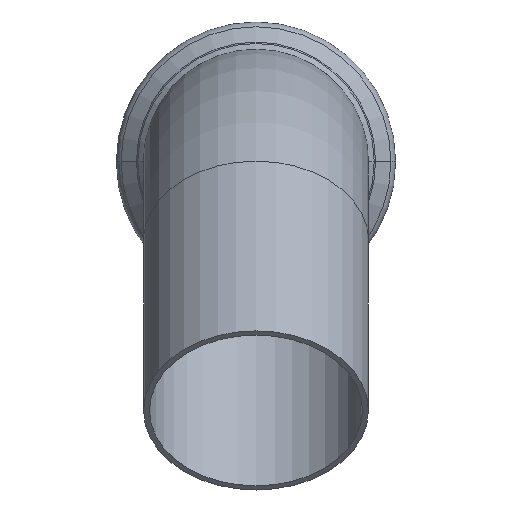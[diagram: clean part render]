
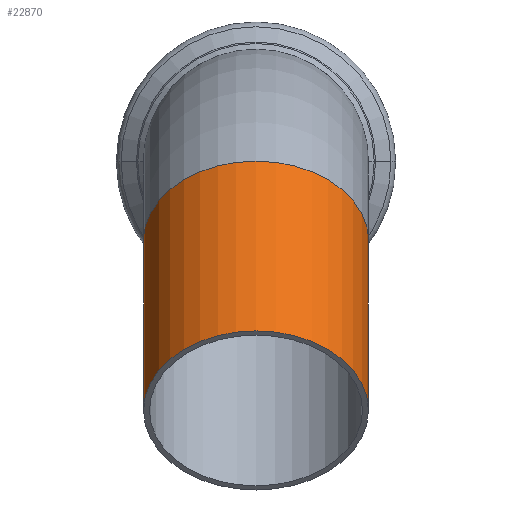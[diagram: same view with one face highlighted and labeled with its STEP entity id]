
A CAD part, left-side view. The second image highlights one B-rep face of the part: STEP entity #22870.
In plain terms, the highlighted cylindrical face has radius 38.05 mm (diameter 76.1 mm), a partial arc.
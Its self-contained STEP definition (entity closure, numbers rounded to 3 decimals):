
#4660=CARTESIAN_POINT('',(-117.146,0.,-84.146));
#4670=DIRECTION('',(0.707,0.,0.707));
#4680=DIRECTION('',(0.,1.,0.));
#4690=AXIS2_PLACEMENT_3D('',#4660,#4670,#4680);
#4700=CIRCLE('',#4690,38.05);
#4710=CARTESIAN_POINT('',(-117.146,38.05,-84.146));
#4720=VERTEX_POINT('',#4710);
#4730=CARTESIAN_POINT('',(-117.146,-38.05,-84.146));
#4740=VERTEX_POINT('',#4730);
#4750=EDGE_CURVE('',#4720,#4740,#4700,.T.);
#17180=CARTESIAN_POINT('',(-59.741,0.,-26.741));
#17190=DIRECTION('',(0.707,0.,0.707));
#17200=DIRECTION('',(0.,1.,0.));
#17210=AXIS2_PLACEMENT_3D('',#17180,#17190,#17200);
#17220=CYLINDRICAL_SURFACE('',#17210,38.05);
#17230=CARTESIAN_POINT('',(-59.741,-38.05,-26.741));
#17240=DIRECTION('',(0.707,0.,0.707));
#17250=VECTOR('',#17240,1.);
#17260=LINE('',#17230,#17250);
#17270=CARTESIAN_POINT('',(-59.741,-38.05,-26.741));
#17280=VERTEX_POINT('',#17270);
#17290=EDGE_CURVE('',#4740,#17280,#17260,.T.);
#17310=CARTESIAN_POINT('',(-59.741,0.,-26.741));
#17320=DIRECTION('',(-0.707,0.,-0.707));
#17330=DIRECTION('',(0.,1.,0.));
#17340=AXIS2_PLACEMENT_3D('',#17310,#17320,#17330);
#17350=CIRCLE('',#17340,38.05);
#17360=CARTESIAN_POINT('',(-59.741,38.05,-26.741));
#17370=VERTEX_POINT('',#17360);
#17400=CARTESIAN_POINT('',(-59.741,38.05,-26.741));
#17410=DIRECTION('',(0.707,0.,0.707));
#17420=VECTOR('',#17410,1.);
#17430=LINE('',#17400,#17420);
#17440=EDGE_CURVE('',#4720,#17370,#17430,.T.);
#22290=EDGE_CURVE('',#17280,#17370,#17350,.T.);
#22810=ORIENTED_EDGE('',*,*,#22290,.T.);
#22820=ORIENTED_EDGE('',*,*,#17290,.T.);
#22830=ORIENTED_EDGE('',*,*,#4750,.T.);
#22840=ORIENTED_EDGE('',*,*,#17440,.F.);
#22850=EDGE_LOOP('',(#22840,#22830,#22820,#22810));
#22860=FACE_OUTER_BOUND('',#22850,.T.);
#22870=ADVANCED_FACE('',(#22860),#17220,.T.);
